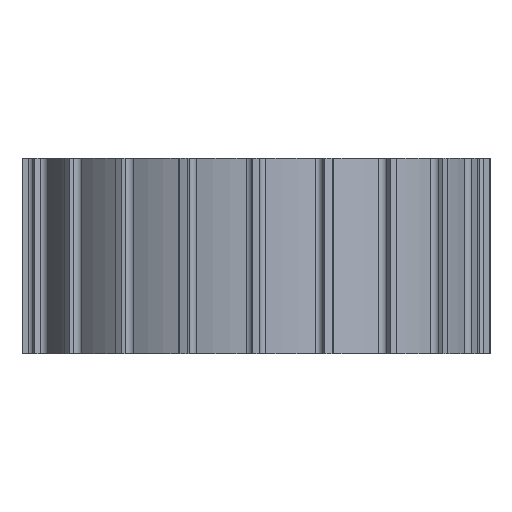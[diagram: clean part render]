
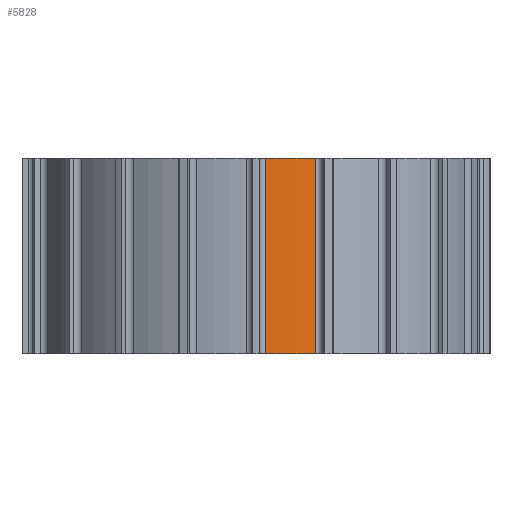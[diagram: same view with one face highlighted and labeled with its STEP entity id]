
A CAD part, front view. The second image highlights one B-rep face of the part: STEP entity #5828.
In plain terms, the highlighted cylindrical face has radius 57 mm (diameter 114 mm), a partial arc.
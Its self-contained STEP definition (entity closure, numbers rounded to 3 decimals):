
#133 = DIRECTION ( 'NONE',  ( 1., 0., 0. ) ) ;
#212 = VERTEX_POINT ( 'NONE', #8622 ) ;
#588 = CARTESIAN_POINT ( 'NONE',  ( 2.436, -56.948, -5.749 ) ) ;
#753 = DIRECTION ( 'NONE',  ( 0., 0., 1. ) ) ;
#789 = VERTEX_POINT ( 'NONE', #10270 ) ;
#859 = EDGE_CURVE ( 'NONE', #10287, #11125, #2310, .T. ) ;
#1227 = AXIS2_PLACEMENT_3D ( 'NONE', #10068, #4548, #3751 ) ;
#1332 = CARTESIAN_POINT ( 'NONE',  ( 0., 0., 0. ) ) ;
#1761 = CIRCLE ( 'NONE', #5878, 57. ) ;
#2280 = ORIENTED_EDGE ( 'NONE', *, *, #859, .T. ) ;
#2310 = CIRCLE ( 'NONE', #8177, 57. ) ;
#2338 = ORIENTED_EDGE ( 'NONE', *, *, #3344, .F. ) ;
#2447 = EDGE_CURVE ( 'NONE', #789, #212, #1761, .T. ) ;
#3344 = EDGE_CURVE ( 'NONE', #10287, #789, #6971, .T. ) ;
#3482 = CARTESIAN_POINT ( 'NONE',  ( 2.436, -56.948, 0. ) ) ;
#3751 = DIRECTION ( 'NONE',  ( -1., 0., 0. ) ) ;
#3840 = EDGE_LOOP ( 'NONE', ( #2280, #8652, #5482, #2338 ) ) ;
#4037 = EDGE_CURVE ( 'NONE', #11125, #212, #4415, .T. ) ;
#4193 = DIRECTION ( 'NONE',  ( 0., 0., 1. ) ) ;
#4321 = VECTOR ( 'NONE', #753, 1000. ) ;
#4415 = LINE ( 'NONE', #8166, #4321 ) ;
#4548 = DIRECTION ( 'NONE',  ( 0., 0., -1. ) ) ;
#4668 = CYLINDRICAL_SURFACE ( 'NONE', #1227, 57. ) ;
#5063 = DIRECTION ( 'NONE',  ( 0., 0., 1. ) ) ;
#5482 = ORIENTED_EDGE ( 'NONE', *, *, #2447, .F. ) ;
#5828 = ADVANCED_FACE ( 'NONE', ( #10184 ), #4668, .T. ) ;
#5878 = AXIS2_PLACEMENT_3D ( 'NONE', #10056, #7183, #133 ) ;
#6667 = DIRECTION ( 'NONE',  ( 1., 0., 0. ) ) ;
#6971 = LINE ( 'NONE', #588, #11841 ) ;
#7183 = DIRECTION ( 'NONE',  ( 0., 0., 1. ) ) ;
#7191 = CARTESIAN_POINT ( 'NONE',  ( 15.281, -54.913, 0. ) ) ;
#8166 = CARTESIAN_POINT ( 'NONE',  ( 15.281, -54.913, -6.093 ) ) ;
#8177 = AXIS2_PLACEMENT_3D ( 'NONE', #1332, #5063, #6667 ) ;
#8622 = CARTESIAN_POINT ( 'NONE',  ( 15.281, -54.913, 50. ) ) ;
#8652 = ORIENTED_EDGE ( 'NONE', *, *, #4037, .T. ) ;
#10056 = CARTESIAN_POINT ( 'NONE',  ( 0., 0., 50. ) ) ;
#10068 = CARTESIAN_POINT ( 'NONE',  ( 0., 0., 50. ) ) ;
#10184 = FACE_OUTER_BOUND ( 'NONE', #3840, .T. ) ;
#10270 = CARTESIAN_POINT ( 'NONE',  ( 2.436, -56.948, 50. ) ) ;
#10287 = VERTEX_POINT ( 'NONE', #3482 ) ;
#11125 = VERTEX_POINT ( 'NONE', #7191 ) ;
#11841 = VECTOR ( 'NONE', #4193, 1000. ) ;
